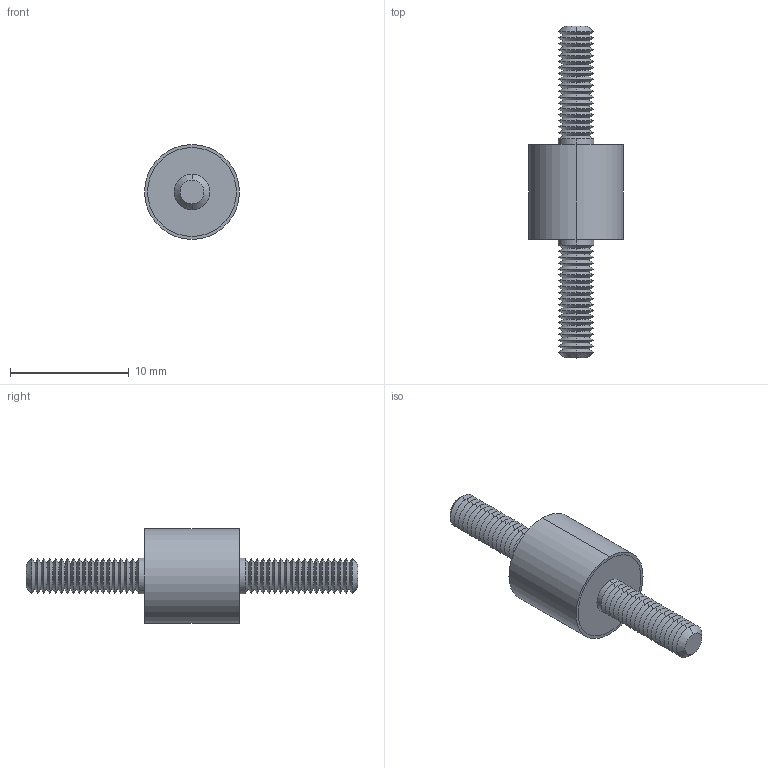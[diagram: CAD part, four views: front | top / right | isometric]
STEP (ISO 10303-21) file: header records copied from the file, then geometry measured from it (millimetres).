
FILE_DESCRIPTION (( 'STEP AP203' ), '1' );
FILE_NAME ('61040.W0081.step', '2019-09-24T22:22:33', ( '' ), ( '' ), 'SwSTEP 2.0', 'SolidWorks 2017', '' );
FILE_SCHEMA (( 'CONFIG_CONTROL_DESIGN' ));
Length unit declared in the file: millimetre
Products named in the file (4): Part1_61040.W0081; 61040.W0081; Part3_61040.W0081; Part2_61040.W0081
Assembly tree (3 placements, depth 2):
  61040.W0081
    Part1_61040.W0081
    Part2_61040.W0081
    Part3_61040.W0081
Bounding box: 8 x 28 x 8 mm (x, y, z)
Volume: 508.2 mm3; surface area: 828.4 mm2
Topology: 3 solids, 3 shells, 172 faces, 338 edges, 176 vertices
Faces by surface type: cone 148, cylinder 14, plane 10
Entity records: 4708 total; most frequent: DIRECTION 870, CARTESIAN_POINT 692, ORIENTED_EDGE 676, AXIS2_PLACEMENT_3D 354, EDGE_CURVE 338, VERTEX_POINT 176, EDGE_LOOP 176, CIRCLE 176
